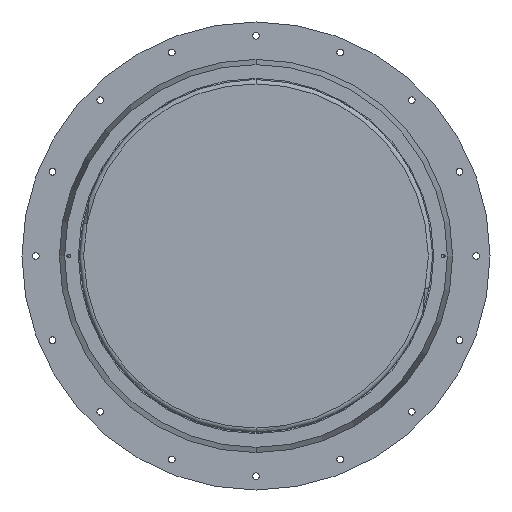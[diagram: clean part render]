
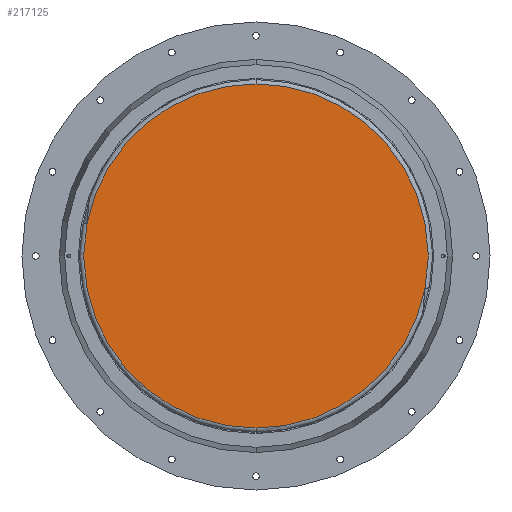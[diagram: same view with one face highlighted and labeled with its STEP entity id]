
A CAD part, front view. The second image highlights one B-rep face of the part: STEP entity #217125.
In plain terms, the highlighted planar face has unit normal (0, -1, 0).
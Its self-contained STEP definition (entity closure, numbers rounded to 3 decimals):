
#1089 = CIRCLE ( 'NONE', #10859, 625. ) ;
#4881 = LINE ( 'NONE', #180117, #101970 ) ;
#7951 = CARTESIAN_POINT ( 'NONE',  ( 625., 0., 13.91 ) ) ;
#10859 = AXIS2_PLACEMENT_3D ( 'NONE', #18990, #154741, #38518 ) ;
#11007 = ORIENTED_EDGE ( 'NONE', *, *, #13485, .T. ) ;
#13485 = EDGE_CURVE ( 'NONE', #17960, #31396, #113852, .T. ) ;
#16789 = VECTOR ( 'NONE', #185920, 1000. ) ;
#16802 = CARTESIAN_POINT ( 'NONE',  ( 625., 0., -13.785 ) ) ;
#17945 = AXIS2_PLACEMENT_3D ( 'NONE', #68554, #204495, #88097 ) ;
#17960 = VERTEX_POINT ( 'NONE', #64687 ) ;
#18990 = CARTESIAN_POINT ( 'NONE',  ( 0., 0., 0. ) ) ;
#20480 = CARTESIAN_POINT ( 'NONE',  ( 0., 0., 625. ) ) ;
#30966 = VERTEX_POINT ( 'NONE', #164589 ) ;
#30973 = EDGE_CURVE ( 'NONE', #167801, #17960, #165575, .T. ) ;
#31396 = VERTEX_POINT ( 'NONE', #169480 ) ;
#31940 = FACE_OUTER_BOUND ( 'NONE', #211332, .T. ) ;
#32095 = CARTESIAN_POINT ( 'NONE',  ( -625., 0., -13.785 ) ) ;
#35474 = CARTESIAN_POINT ( 'NONE',  ( 624.85, 0., -13.904 ) ) ;
#37729 = ORIENTED_EDGE ( 'NONE', *, *, #151372, .T. ) ;
#38518 = DIRECTION ( 'NONE',  ( 0., 0., 1. ) ) ;
#40898 = VERTEX_POINT ( 'NONE', #94746 ) ;
#41991 = ORIENTED_EDGE ( 'NONE', *, *, #211781, .F. ) ;
#49182 = VERTEX_POINT ( 'NONE', #121358 ) ;
#49980 = CARTESIAN_POINT ( 'NONE',  ( -625., 0., 0. ) ) ;
#50036 = CARTESIAN_POINT ( 'NONE',  ( 625., 0., 13.91 ) ) ;
#50302 = CARTESIAN_POINT ( 'NONE',  ( -624.85, 0., 13.904 ) ) ;
#51633 = CARTESIAN_POINT ( 'NONE',  ( -624.86, 0., -13.896 ) ) ;
#56086 = AXIS2_PLACEMENT_3D ( 'NONE', #191519, #75080, #211089 ) ;
#62892 = VERTEX_POINT ( 'NONE', #197410 ) ;
#64687 = CARTESIAN_POINT ( 'NONE',  ( 625., 0., 13.785 ) ) ;
#68554 = CARTESIAN_POINT ( 'NONE',  ( 0., 0., 0. ) ) ;
#71114 = CARTESIAN_POINT ( 'NONE',  ( -624.85, 0., -13.904 ) ) ;
#75080 = DIRECTION ( 'NONE',  ( 0., 1., 0. ) ) ;
#75936 = ORIENTED_EDGE ( 'NONE', *, *, #194322, .F. ) ;
#75946 = ORIENTED_EDGE ( 'NONE', *, *, #131226, .T. ) ;
#76043 = LINE ( 'NONE', #181457, #179490 ) ;
#80732 = PLANE ( 'NONE',  #229189 ) ;
#81584 = DIRECTION ( 'NONE',  ( 0., -1., 0. ) ) ;
#84603 = DIRECTION ( 'NONE',  ( 0., 0., 1. ) ) ;
#86367 = CARTESIAN_POINT ( 'NONE',  ( 0., 0., -625. ) ) ;
#88097 = DIRECTION ( 'NONE',  ( 0., 0., 1. ) ) ;
#89319 = CARTESIAN_POINT ( 'NONE',  ( -624.86, 0., 13.896 ) ) ;
#93057 = B_SPLINE_CURVE_WITH_KNOTS ( 'NONE', 3,
 ( #186197, #50302, #205717, #89319, #225251, #108841, #244737 ),
 .UNSPECIFIED., .F., .F.,
 ( 4, 3, 4 ),
 ( 0., 0., 0. ),
 .UNSPECIFIED. ) ;
#93173 = CARTESIAN_POINT ( 'NONE',  ( 624.855, 0., 13.9 ) ) ;
#94746 = CARTESIAN_POINT ( 'NONE',  ( -624.845, 0., 13.908 ) ) ;
#100405 = DIRECTION ( 'NONE',  ( 0., 1., 0. ) ) ;
#101970 = VECTOR ( 'NONE', #159657, 1000. ) ;
#103806 = B_SPLINE_CURVE_WITH_KNOTS ( 'NONE', 3,
 ( #171256, #35474, #229910, #113506, #249394, #133020, #16802 ),
 .UNSPECIFIED., .F., .F.,
 ( 4, 3, 4 ),
 ( 0., 0., 0. ),
 .UNSPECIFIED. ) ;
#104325 = EDGE_CURVE ( 'NONE', #137793, #31396, #241315, .T. ) ;
#108841 = CARTESIAN_POINT ( 'NONE',  ( -624.953, 0., 13.822 ) ) ;
#110325 = VERTEX_POINT ( 'NONE', #209767 ) ;
#112650 = CARTESIAN_POINT ( 'NONE',  ( 624.845, 0., 13.908 ) ) ;
#113506 = CARTESIAN_POINT ( 'NONE',  ( 624.86, 0., -13.896 ) ) ;
#113852 = B_SPLINE_CURVE_WITH_KNOTS ( 'NONE', 3,
 ( #190009, #170413, #224927, #209600, #93173, #229072, #112650 ),
 .UNSPECIFIED., .F., .F.,
 ( 4, 3, 4 ),
 ( 0., 0., 0. ),
 .UNSPECIFIED. ) ;
#121358 = CARTESIAN_POINT ( 'NONE',  ( -624.845, 0., -13.908 ) ) ;
#123376 = EDGE_CURVE ( 'NONE', #62892, #167801, #221753, .T. ) ;
#124037 = VERTEX_POINT ( 'NONE', #49980 ) ;
#128870 = CARTESIAN_POINT ( 'NONE',  ( -624.953, 0., -13.822 ) ) ;
#131226 = EDGE_CURVE ( 'NONE', #110325, #49182, #163046, .T. ) ;
#133020 = CARTESIAN_POINT ( 'NONE',  ( 624.953, 0., -13.822 ) ) ;
#137793 = VERTEX_POINT ( 'NONE', #20480 ) ;
#141759 = CARTESIAN_POINT ( 'NONE',  ( 624.845, 0., -13.908 ) ) ;
#148752 = ORIENTED_EDGE ( 'NONE', *, *, #30973, .T. ) ;
#151372 = EDGE_CURVE ( 'NONE', #248055, #62892, #103806, .T. ) ;
#154741 = DIRECTION ( 'NONE',  ( 0., 1., 0. ) ) ;
#155020 = CIRCLE ( 'NONE', #17945, 625. ) ;
#159657 = DIRECTION ( 'NONE',  ( 0., 0., 1. ) ) ;
#163046 = B_SPLINE_CURVE_WITH_KNOTS ( 'NONE', 3,
 ( #32095, #128870, #167895, #51633, #187527, #71114, #207080 ),
 .UNSPECIFIED., .F., .F.,
 ( 4, 3, 4 ),
 ( 0., 0., 0. ),
 .UNSPECIFIED. ) ;
#164589 = CARTESIAN_POINT ( 'NONE',  ( -625., 0., 13.785 ) ) ;
#165575 = LINE ( 'NONE', #50036, #16789 ) ;
#167394 = ORIENTED_EDGE ( 'NONE', *, *, #202377, .F. ) ;
#167541 = EDGE_CURVE ( 'NONE', #248055, #219182, #1089, .T. ) ;
#167801 = VERTEX_POINT ( 'NONE', #205665 ) ;
#167895 = CARTESIAN_POINT ( 'NONE',  ( -624.907, 0., -13.859 ) ) ;
#169480 = CARTESIAN_POINT ( 'NONE',  ( 624.845, 0., 13.908 ) ) ;
#170413 = CARTESIAN_POINT ( 'NONE',  ( 624.953, 0., 13.822 ) ) ;
#171256 = CARTESIAN_POINT ( 'NONE',  ( 624.845, 0., -13.908 ) ) ;
#175656 = ORIENTED_EDGE ( 'NONE', *, *, #167541, .F. ) ;
#179490 = VECTOR ( 'NONE', #84603, 1000. ) ;
#180117 = CARTESIAN_POINT ( 'NONE',  ( -625., 0., 13.91 ) ) ;
#181457 = CARTESIAN_POINT ( 'NONE',  ( -625., 0., 13.91 ) ) ;
#183226 = ORIENTED_EDGE ( 'NONE', *, *, #244316, .T. ) ;
#185241 = CIRCLE ( 'NONE', #234412, 625. ) ;
#185920 = DIRECTION ( 'NONE',  ( 0., 0., 1. ) ) ;
#186197 = CARTESIAN_POINT ( 'NONE',  ( -624.845, 0., 13.908 ) ) ;
#187527 = CARTESIAN_POINT ( 'NONE',  ( -624.855, 0., -13.9 ) ) ;
#189927 = ORIENTED_EDGE ( 'NONE', *, *, #104325, .F. ) ;
#190009 = CARTESIAN_POINT ( 'NONE',  ( 625., 0., 13.785 ) ) ;
#191519 = CARTESIAN_POINT ( 'NONE',  ( 0., 0., 0. ) ) ;
#194322 = EDGE_CURVE ( 'NONE', #40898, #137793, #185241, .T. ) ;
#197410 = CARTESIAN_POINT ( 'NONE',  ( 625., 0., -13.785 ) ) ;
#197970 = CARTESIAN_POINT ( 'NONE',  ( -150., 0., 8. ) ) ;
#202377 = EDGE_CURVE ( 'NONE', #124037, #30966, #76043, .T. ) ;
#204495 = DIRECTION ( 'NONE',  ( 0., 1., 0. ) ) ;
#205665 = CARTESIAN_POINT ( 'NONE',  ( 625., 0., 0. ) ) ;
#205717 = CARTESIAN_POINT ( 'NONE',  ( -624.855, 0., 13.9 ) ) ;
#207080 = CARTESIAN_POINT ( 'NONE',  ( -624.845, 0., -13.908 ) ) ;
#209600 = CARTESIAN_POINT ( 'NONE',  ( 624.86, 0., 13.896 ) ) ;
#209767 = CARTESIAN_POINT ( 'NONE',  ( -625., 0., -13.785 ) ) ;
#211089 = DIRECTION ( 'NONE',  ( 0., 0., 1. ) ) ;
#211332 = EDGE_LOOP ( 'NONE', ( #75936, #183226, #167394, #251909, #75946, #41991, #175656, #37729, #240959, #148752, #11007, #189927 ) ) ;
#211781 = EDGE_CURVE ( 'NONE', #219182, #49182, #155020, .T. ) ;
#215587 = VECTOR ( 'NONE', #240589, 1000. ) ;
#216793 = CARTESIAN_POINT ( 'NONE',  ( 0., 0., 0. ) ) ;
#217125 = ADVANCED_FACE ( 'NONE', ( #31940 ), #80732, .T. ) ;
#217518 = DIRECTION ( 'NONE',  ( 0., 0., -1. ) ) ;
#219182 = VERTEX_POINT ( 'NONE', #86367 ) ;
#221753 = LINE ( 'NONE', #7951, #215587 ) ;
#224927 = CARTESIAN_POINT ( 'NONE',  ( 624.907, 0., 13.859 ) ) ;
#225251 = CARTESIAN_POINT ( 'NONE',  ( -624.907, 0., 13.859 ) ) ;
#225943 = EDGE_CURVE ( 'NONE', #110325, #124037, #4881, .T. ) ;
#229072 = CARTESIAN_POINT ( 'NONE',  ( 624.85, 0., 13.904 ) ) ;
#229189 = AXIS2_PLACEMENT_3D ( 'NONE', #197970, #81584, #217518 ) ;
#229910 = CARTESIAN_POINT ( 'NONE',  ( 624.855, 0., -13.9 ) ) ;
#234412 = AXIS2_PLACEMENT_3D ( 'NONE', #216793, #100405, #236293 ) ;
#236293 = DIRECTION ( 'NONE',  ( 0., 0., 1. ) ) ;
#240589 = DIRECTION ( 'NONE',  ( 0., 0., 1. ) ) ;
#240959 = ORIENTED_EDGE ( 'NONE', *, *, #123376, .T. ) ;
#241315 = CIRCLE ( 'NONE', #56086, 625. ) ;
#244316 = EDGE_CURVE ( 'NONE', #40898, #30966, #93057, .T. ) ;
#244737 = CARTESIAN_POINT ( 'NONE',  ( -625., 0., 13.785 ) ) ;
#248055 = VERTEX_POINT ( 'NONE', #141759 ) ;
#249394 = CARTESIAN_POINT ( 'NONE',  ( 624.907, 0., -13.859 ) ) ;
#251909 = ORIENTED_EDGE ( 'NONE', *, *, #225943, .F. ) ;
